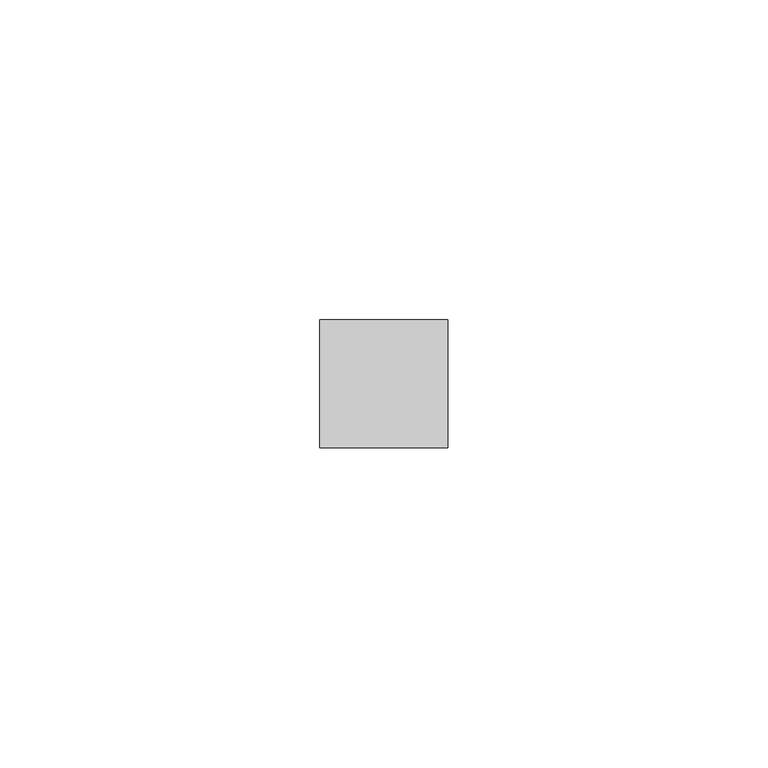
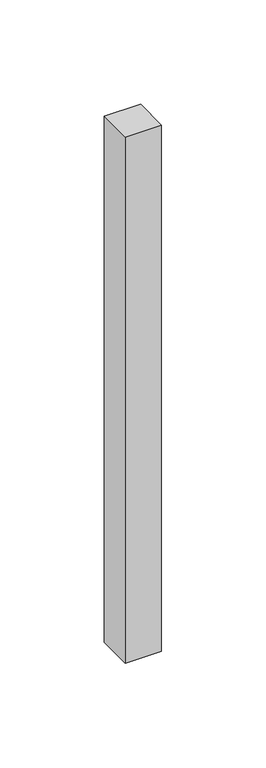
"""IFC4 building model written with IfcOpenShell, lengths in millimetres: member geometry, 矩形竖梃 : 20mm 正方形."""

from ifc_helpers import new_model, si_unit, frame, origin, place, context, project, spatial, polyline, outline, extrude, source, transform, mapped, element, save


def member_88db9026(model_context):
    return source(origin(), model_context, "Body", "SweptSolid", [
        extrude(outline(polyline([(0.0, 10.0), (0.0, -10.0), (-20.0, -10.0), (-20.0, 10.0), (0.0, 10.0)])), frame((0.0, 0.0, -308.0), z_axis=(0.0, 0.0, 1.0), x_axis=(1.0, 0.0, 0.0)), (0.0, 0.0, 1.0), 308.0),
    ])


if __name__ == "__main__":
    model = new_model("IFC4")
    model_context = context("Model", 3, world=origin())
    ifc_project = project(units=[si_unit("LENGTHUNIT", "METRE", prefix="MILLI")], contexts=[model_context])
    site = spatial("IfcSite", under=ifc_project)
    building = spatial("IfcBuilding", under=site)
    placement = place(None, origin())
    member_shape = member_88db9026(model_context)
    element("IfcMember", 1, ObjectType="矩形竖梃 : 20mm 正方形", at=placement, inside=building, context=model_context, shape_type="MappedRepresentation", body=[
        mapped(member_shape, transform((0.0, 0.0, 0.0), x_axis=(1.0, 0.0, 0.0), y_axis=(0.0, 1.0, 0.0), z_axis=(0.0, 0.0, 1.0))),
    ])
    save(model, "model.ifc")
